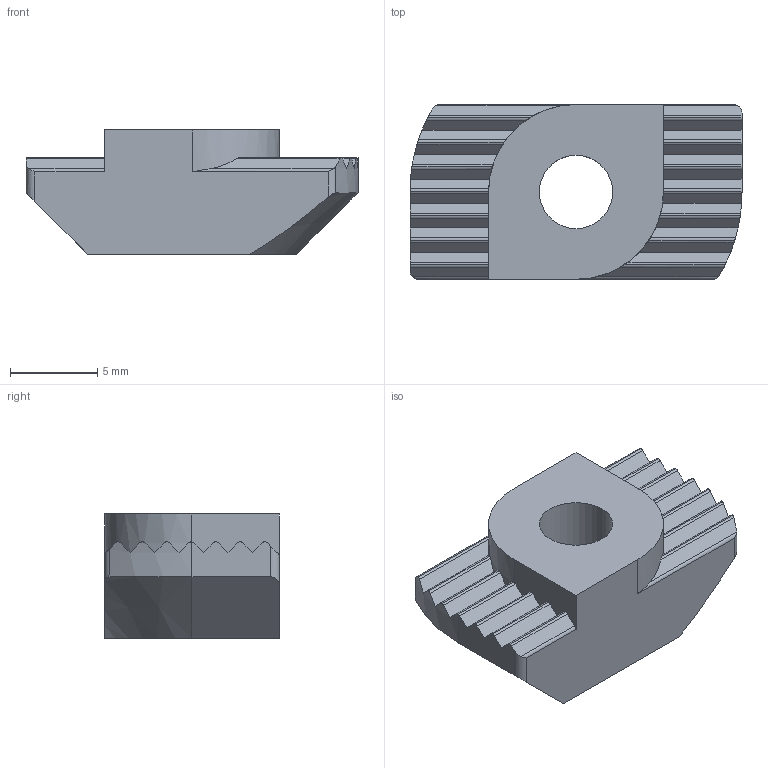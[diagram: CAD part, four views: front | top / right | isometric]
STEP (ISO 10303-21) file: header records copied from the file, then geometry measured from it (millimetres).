
FILE_DESCRIPTION(('STEP AP214'),'1');
FILE_NAME('fath_096h10517.stp','2017-10-10T10:13:20',('TraceParts'),('TraceParts S.A.'),'Spatial InterOp 3D',' ',' ');
FILE_SCHEMA(('automotive_design'));
Length unit declared in the file: millimetre
Products named in the file (1): fath_096h10517
Bounding box: 19 x 10 x 7.1 mm (x, y, z)
Volume: 910.2 mm3; surface area: 748.4 mm2
Topology: 1 solids, 1 shells, 82 faces, 238 edges, 158 vertices
Faces by surface type: cylinder 42, plane 38, cone 2
Entity records: 3471 total; most frequent: CARTESIAN_POINT 759, ORIENTED_EDGE 476, DIRECTION 372, EDGE_CURVE 238, VERTEX_POINT 158, AXIS2_PLACEMENT_3D 125, LINE 122, VECTOR 122
